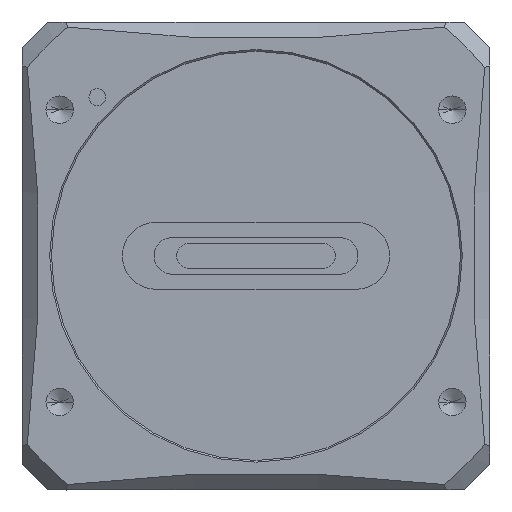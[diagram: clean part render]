
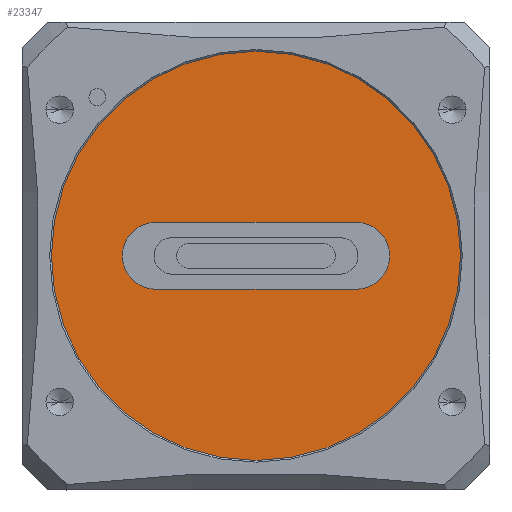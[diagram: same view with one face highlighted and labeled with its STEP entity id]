
A CAD part, top view. The second image highlights one B-rep face of the part: STEP entity #23347.
In plain terms, the highlighted planar face has unit normal (0, 0, 1).
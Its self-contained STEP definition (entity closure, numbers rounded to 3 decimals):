
#1714 = EDGE_LOOP ( 'NONE', ( #12871, #38588, #7104, #13456, #10234 ) ) ;
#3589 = CARTESIAN_POINT ( 'NONE',  ( -12., 0., 8.66 ) ) ;
#3829 = EDGE_CURVE ( 'NONE', #6511, #39620, #7674, .T. ) ;
#3873 = DIRECTION ( 'NONE',  ( 1., 0., 0. ) ) ;
#5008 = CARTESIAN_POINT ( 'NONE',  ( 12., 4., 8.66 ) ) ;
#5201 = EDGE_LOOP ( 'NONE', ( #28566, #7680 ) ) ;
#6439 = CIRCLE ( 'NONE', #18390, 24.5 ) ;
#6511 = VERTEX_POINT ( 'NONE', #27123 ) ;
#7104 = ORIENTED_EDGE ( 'NONE', *, *, #24410, .F. ) ;
#7674 = CIRCLE ( 'NONE', #36164, 4. ) ;
#7680 = ORIENTED_EDGE ( 'NONE', *, *, #23368, .T. ) ;
#8089 = DIRECTION ( 'NONE',  ( -1., 0., 0. ) ) ;
#9292 = FACE_OUTER_BOUND ( 'NONE', #5201, .T. ) ;
#9936 = EDGE_CURVE ( 'NONE', #16101, #52494, #41376, .T. ) ;
#10001 = EDGE_CURVE ( 'NONE', #23211, #41733, #6439, .T. ) ;
#10234 = ORIENTED_EDGE ( 'NONE', *, *, #35777, .F. ) ;
#11026 = DIRECTION ( 'NONE',  ( 1., 0., 0. ) ) ;
#11576 = CARTESIAN_POINT ( 'NONE',  ( 0., 0., 8.66 ) ) ;
#12871 = ORIENTED_EDGE ( 'NONE', *, *, #9936, .F. ) ;
#13456 = ORIENTED_EDGE ( 'NONE', *, *, #3829, .F. ) ;
#14506 = DIRECTION ( 'NONE',  ( 0., 0., 1. ) ) ;
#14617 = EDGE_CURVE ( 'NONE', #46050, #16101, #30474, .T. ) ;
#16101 = VERTEX_POINT ( 'NONE', #32184 ) ;
#16503 = AXIS2_PLACEMENT_3D ( 'NONE', #3589, #22015, #48287 ) ;
#18390 = AXIS2_PLACEMENT_3D ( 'NONE', #32354, #22860, #18569 ) ;
#18520 = CARTESIAN_POINT ( 'NONE',  ( 24.5, 0., 8.66 ) ) ;
#18569 = DIRECTION ( 'NONE',  ( 1., 0., 0. ) ) ;
#20005 = CARTESIAN_POINT ( 'NONE',  ( -12., 4., 8.66 ) ) ;
#21193 = VECTOR ( 'NONE', #36922, 1000. ) ;
#22015 = DIRECTION ( 'NONE',  ( 0., 0., 1. ) ) ;
#22517 = PLANE ( 'NONE',  #49625 ) ;
#22860 = DIRECTION ( 'NONE',  ( 0., 0., 1. ) ) ;
#23211 = VERTEX_POINT ( 'NONE', #18520 ) ;
#23234 = CARTESIAN_POINT ( 'NONE',  ( 12., 0., 8.66 ) ) ;
#23347 = ADVANCED_FACE ( 'NONE', ( #54012, #9292 ), #22517, .T. ) ;
#23368 = EDGE_CURVE ( 'NONE', #41733, #23211, #56913, .T. ) ;
#24410 = EDGE_CURVE ( 'NONE', #39620, #46050, #49820, .T. ) ;
#27088 = VECTOR ( 'NONE', #8089, 1000. ) ;
#27123 = CARTESIAN_POINT ( 'NONE',  ( 12., -4., 8.66 ) ) ;
#27397 = LINE ( 'NONE', #45080, #21193 ) ;
#28566 = ORIENTED_EDGE ( 'NONE', *, *, #10001, .T. ) ;
#30474 = LINE ( 'NONE', #20005, #27088 ) ;
#30706 = DIRECTION ( 'NONE',  ( 0., 0., 1. ) ) ;
#32184 = CARTESIAN_POINT ( 'NONE',  ( -12., 4., 8.66 ) ) ;
#32354 = CARTESIAN_POINT ( 'NONE',  ( 0., 0., 8.66 ) ) ;
#33784 = DIRECTION ( 'NONE',  ( 0., 0., 1. ) ) ;
#35777 = EDGE_CURVE ( 'NONE', #52494, #6511, #27397, .T. ) ;
#36164 = AXIS2_PLACEMENT_3D ( 'NONE', #53180, #43950, #3873 ) ;
#36690 = AXIS2_PLACEMENT_3D ( 'NONE', #11576, #33784, #46182 ) ;
#36922 = DIRECTION ( 'NONE',  ( 1., 0., 0. ) ) ;
#38588 = ORIENTED_EDGE ( 'NONE', *, *, #14617, .F. ) ;
#39620 = VERTEX_POINT ( 'NONE', #53199 ) ;
#41376 = CIRCLE ( 'NONE', #16503, 4. ) ;
#41733 = VERTEX_POINT ( 'NONE', #41868 ) ;
#41868 = CARTESIAN_POINT ( 'NONE',  ( -24.5, 0., 8.66 ) ) ;
#43950 = DIRECTION ( 'NONE',  ( 0., 0., 1. ) ) ;
#45080 = CARTESIAN_POINT ( 'NONE',  ( -12., -4., 8.66 ) ) ;
#46050 = VERTEX_POINT ( 'NONE', #5008 ) ;
#46182 = DIRECTION ( 'NONE',  ( 1., 0., 0. ) ) ;
#47983 = AXIS2_PLACEMENT_3D ( 'NONE', #23234, #30706, #49542 ) ;
#48287 = DIRECTION ( 'NONE',  ( 1., 0., 0. ) ) ;
#49542 = DIRECTION ( 'NONE',  ( 1., 0., 0. ) ) ;
#49625 = AXIS2_PLACEMENT_3D ( 'NONE', #53427, #14506, #11026 ) ;
#49820 = CIRCLE ( 'NONE', #47983, 4. ) ;
#52494 = VERTEX_POINT ( 'NONE', #52602 ) ;
#52602 = CARTESIAN_POINT ( 'NONE',  ( -12., -4., 8.66 ) ) ;
#53180 = CARTESIAN_POINT ( 'NONE',  ( 12., 0., 8.66 ) ) ;
#53199 = CARTESIAN_POINT ( 'NONE',  ( 16., 0., 8.66 ) ) ;
#53427 = CARTESIAN_POINT ( 'NONE',  ( 0., 0., 8.66 ) ) ;
#54012 = FACE_BOUND ( 'NONE', #1714, .T. ) ;
#56913 = CIRCLE ( 'NONE', #36690, 24.5 ) ;
